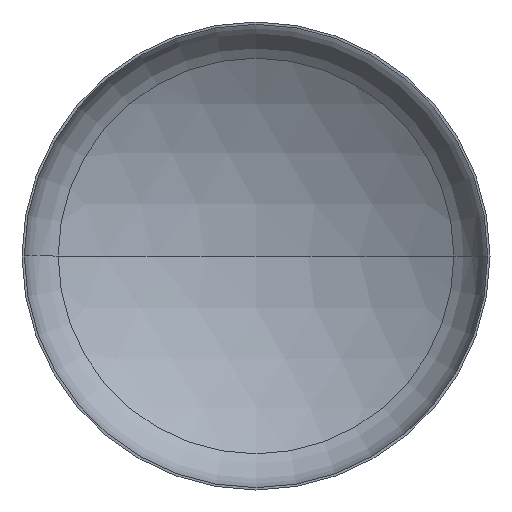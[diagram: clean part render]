
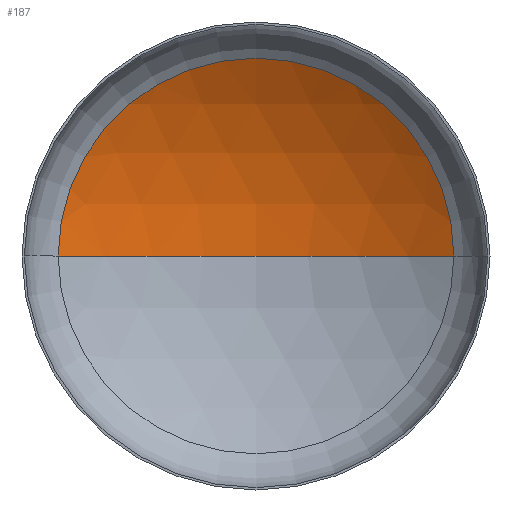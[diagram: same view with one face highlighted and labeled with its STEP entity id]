
A CAD part, front view. The second image highlights one B-rep face of the part: STEP entity #187.
In plain terms, the highlighted spherical face has radius 480 mm.
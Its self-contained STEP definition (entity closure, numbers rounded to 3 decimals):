
#18 = DIRECTION ( 'NONE',  ( 1., 0., 0. ) ) ;
#19 = EDGE_LOOP ( 'NONE', ( #119, #102, #55 ) ) ;
#24 = DIRECTION ( 'NONE',  ( 0., -1., 0. ) ) ;
#25 = VERTEX_POINT ( 'NONE', #289 ) ;
#30 = CARTESIAN_POINT ( 'NONE',  ( 0., 98.11, 0. ) ) ;
#55 = ORIENTED_EDGE ( 'NONE', *, *, #145, .T. ) ;
#58 = AXIS2_PLACEMENT_3D ( 'NONE', #273, #218, #241 ) ;
#65 = AXIS2_PLACEMENT_3D ( 'NONE', #198, #205, #214 ) ;
#67 = AXIS2_PLACEMENT_3D ( 'NONE', #69, #274, #297 ) ;
#69 = CARTESIAN_POINT ( 'NONE',  ( 0., -309.422, 0. ) ) ;
#70 = AXIS2_PLACEMENT_3D ( 'NONE', #30, #24, #18 ) ;
#79 = VERTEX_POINT ( 'NONE', #231 ) ;
#102 = ORIENTED_EDGE ( 'NONE', *, *, #146, .T. ) ;
#119 = ORIENTED_EDGE ( 'NONE', *, *, #150, .F. ) ;
#134 = VERTEX_POINT ( 'NONE', #350 ) ;
#145 = EDGE_CURVE ( 'NONE', #134, #25, #228, .T. ) ;
#146 = EDGE_CURVE ( 'NONE', #79, #134, #162, .T. ) ;
#150 = EDGE_CURVE ( 'NONE', #79, #25, #358, .T. ) ;
#158 = FACE_OUTER_BOUND ( 'NONE', #19, .T. ) ;
#162 = CIRCLE ( 'NONE', #67, 480. ) ;
#187 = ADVANCED_FACE ( 'NONE', ( #158 ), #403, .F. ) ;
#198 = CARTESIAN_POINT ( 'NONE',  ( 0., -309.422, 0. ) ) ;
#205 = DIRECTION ( 'NONE',  ( 0., 0., 1. ) ) ;
#214 = DIRECTION ( 'NONE',  ( 1., 0., 0. ) ) ;
#218 = DIRECTION ( 'NONE',  ( 0., 0., -1. ) ) ;
#228 = CIRCLE ( 'NONE', #70, 253.608 ) ;
#231 = CARTESIAN_POINT ( 'NONE',  ( 0., 170.578, 0. ) ) ;
#241 = DIRECTION ( 'NONE',  ( -1., 0., 0. ) ) ;
#273 = CARTESIAN_POINT ( 'NONE',  ( 0., -309.422, 0. ) ) ;
#274 = DIRECTION ( 'NONE',  ( 0., 0., -1. ) ) ;
#289 = CARTESIAN_POINT ( 'NONE',  ( -253.608, 98.11, 0. ) ) ;
#297 = DIRECTION ( 'NONE',  ( -1., 0., 0. ) ) ;
#350 = CARTESIAN_POINT ( 'NONE',  ( 253.608, 98.11, 0. ) ) ;
#358 = CIRCLE ( 'NONE', #65, 480. ) ;
#403 = SPHERICAL_SURFACE ( 'NONE', #58, 480. ) ;
